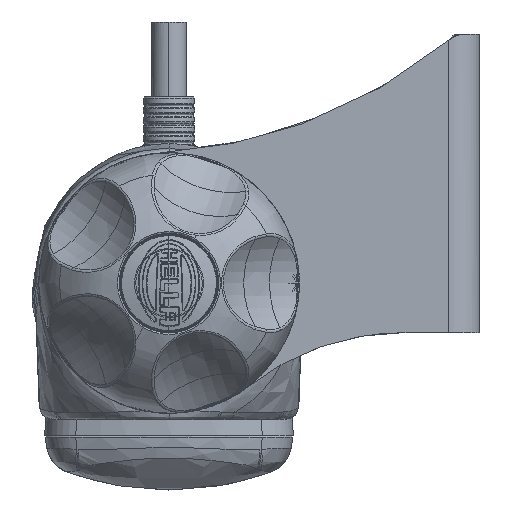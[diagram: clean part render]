
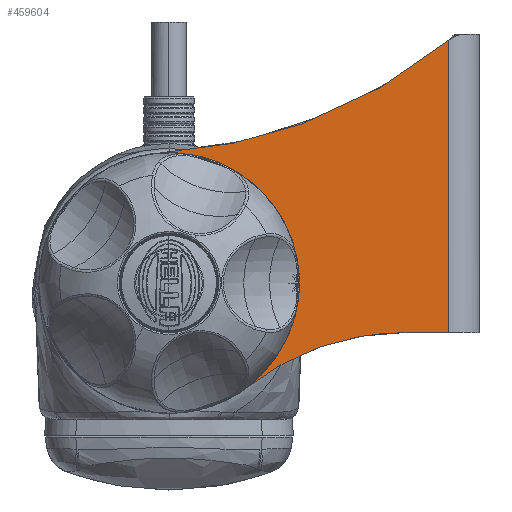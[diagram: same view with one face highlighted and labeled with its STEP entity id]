
A CAD part, left-side view. The second image highlights one B-rep face of the part: STEP entity #459604.
In plain terms, the highlighted planar face has unit normal (-1, 0, 0).
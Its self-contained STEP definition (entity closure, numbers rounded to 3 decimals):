
#459534=AXIS2_PLACEMENT_3D('Plane Axis2P3D',#459531,#459532,#459533) ;
#459382=CARTESIAN_POINT('Vertex',(-247.,7.,20.)) ;
#459386=CARTESIAN_POINT('Control Point',(-247.,7.,20.)) ;
#459387=CARTESIAN_POINT('Control Point',(-247.,7.,18.9)) ;
#459388=CARTESIAN_POINT('Control Point',(-247.,6.784,17.801)) ;
#459389=CARTESIAN_POINT('Control Point',(-247.,6.352,16.758)) ;
#459390=CARTESIAN_POINT('Control Point',(-247.,5.102,14.898)) ;
#459391=CARTESIAN_POINT('Control Point',(-247.,3.242,13.648)) ;
#459392=CARTESIAN_POINT('Control Point',(-247.,2.199,13.216)) ;
#459393=CARTESIAN_POINT('Control Point',(-247.,0.,12.784)) ;
#459394=CARTESIAN_POINT('Control Point',(-247.,-2.199,13.216)) ;
#459395=CARTESIAN_POINT('Control Point',(-247.,-3.242,13.648)) ;
#459396=CARTESIAN_POINT('Control Point',(-247.,-5.102,14.898)) ;
#459397=CARTESIAN_POINT('Control Point',(-247.,-6.352,16.758)) ;
#459398=CARTESIAN_POINT('Control Point',(-247.,-6.784,17.801)) ;
#459399=CARTESIAN_POINT('Control Point',(-247.,-7.,18.9)) ;
#459400=CARTESIAN_POINT('Control Point',(-247.,-7.,20.)) ;
#459401=CARTESIAN_POINT('Vertex',(-247.,-7.,20.)) ;
#459448=CARTESIAN_POINT('Vertex',(-247.,-45.,12.)) ;
#459452=CARTESIAN_POINT('Control Point',(-247.,-37.643,12.)) ;
#459453=CARTESIAN_POINT('Control Point',(-247.,-45.,12.)) ;
#459454=CARTESIAN_POINT('Vertex',(-247.,-37.643,12.)) ;
#459495=CARTESIAN_POINT('Control Point',(-247.,-45.,59.058)) ;
#459496=CARTESIAN_POINT('Control Point',(-247.,-35.259,51.042)) ;
#459497=CARTESIAN_POINT('Control Point',(-247.,-23.827,45.072)) ;
#459498=CARTESIAN_POINT('Control Point',(-247.,-11.381,41.694)) ;
#459499=CARTESIAN_POINT('Control Point',(-247.,1.213,40.965)) ;
#459500=CARTESIAN_POINT('Vertex',(-247.,-45.,59.058)) ;
#459502=CARTESIAN_POINT('Vertex',(-247.,1.213,40.965)) ;
#459531=CARTESIAN_POINT('Axis2P3D Location',(-247.,-37.643,-28.)) ;
#459537=CARTESIAN_POINT('Control Point',(-247.,-45.,12.)) ;
#459538=CARTESIAN_POINT('Control Point',(-247.,-45.,59.058)) ;
#459541=CARTESIAN_POINT('Control Point',(-247.,1.213,40.965)) ;
#459542=CARTESIAN_POINT('Control Point',(-247.,2.701,40.879)) ;
#459543=CARTESIAN_POINT('Control Point',(-247.,5.82,40.362)) ;
#459544=CARTESIAN_POINT('Control Point',(-247.,10.288,38.532)) ;
#459545=CARTESIAN_POINT('Control Point',(-247.,14.428,35.546)) ;
#459546=CARTESIAN_POINT('Control Point',(-247.,17.623,31.768)) ;
#459547=CARTESIAN_POINT('Control Point',(-247.,19.856,27.364)) ;
#459548=CARTESIAN_POINT('Control Point',(-247.,21.026,22.681)) ;
#459549=CARTESIAN_POINT('Control Point',(-247.,21.071,17.576)) ;
#459550=CARTESIAN_POINT('Control Point',(-247.,19.917,12.765)) ;
#459551=CARTESIAN_POINT('Control Point',(-247.,17.69,8.358)) ;
#459552=CARTESIAN_POINT('Control Point',(-247.,14.608,4.642)) ;
#459553=CARTESIAN_POINT('Control Point',(-247.,10.521,1.584)) ;
#459554=CARTESIAN_POINT('Control Point',(-247.,5.961,-0.335)) ;
#459555=CARTESIAN_POINT('Control Point',(-247.,1.091,-1.149)) ;
#459556=CARTESIAN_POINT('Control Point',(-247.,-3.728,-0.865)) ;
#459557=CARTESIAN_POINT('Control Point',(-247.,-8.613,0.618)) ;
#459558=CARTESIAN_POINT('Control Point',(-247.,-11.569,2.385)) ;
#459559=CARTESIAN_POINT('Control Point',(-247.,-12.959,3.475)) ;
#459560=CARTESIAN_POINT('Vertex',(-247.,-12.959,3.475)) ;
#459564=CARTESIAN_POINT('Control Point',(-247.,-12.959,3.475)) ;
#459565=CARTESIAN_POINT('Control Point',(-247.,-14.703,4.843)) ;
#459566=CARTESIAN_POINT('Control Point',(-247.,-18.42,7.289)) ;
#459567=CARTESIAN_POINT('Control Point',(-247.,-24.525,9.983)) ;
#459568=CARTESIAN_POINT('Control Point',(-247.,-30.993,11.631)) ;
#459569=CARTESIAN_POINT('Control Point',(-247.,-35.426,12.)) ;
#459570=CARTESIAN_POINT('Control Point',(-247.,-37.643,12.)) ;
#459580=CARTESIAN_POINT('Control Point',(-247.,-7.,20.)) ;
#459581=CARTESIAN_POINT('Control Point',(-247.,-7.,20.916)) ;
#459582=CARTESIAN_POINT('Control Point',(-247.,-6.636,22.749)) ;
#459583=CARTESIAN_POINT('Control Point',(-247.,-5.079,25.079)) ;
#459584=CARTESIAN_POINT('Control Point',(-247.,-2.749,26.636)) ;
#459585=CARTESIAN_POINT('Control Point',(-247.,-0.916,27.)) ;
#459586=CARTESIAN_POINT('Control Point',(-247.,0.,27.)) ;
#459587=CARTESIAN_POINT('Vertex',(-247.,0.,27.)) ;
#459591=CARTESIAN_POINT('Control Point',(-247.,0.,27.)) ;
#459592=CARTESIAN_POINT('Control Point',(-247.,0.916,27.)) ;
#459593=CARTESIAN_POINT('Control Point',(-247.,2.749,26.636)) ;
#459594=CARTESIAN_POINT('Control Point',(-247.,5.079,25.079)) ;
#459595=CARTESIAN_POINT('Control Point',(-247.,6.636,22.749)) ;
#459596=CARTESIAN_POINT('Control Point',(-247.,7.,20.916)) ;
#459597=CARTESIAN_POINT('Control Point',(-247.,7.,20.)) ;
#459532=DIRECTION('Axis2P3D Direction',(1.,0.,0.)) ;
#459533=DIRECTION('Axis2P3D XDirection',(0.,1.,0.)) ;
#459573=ORIENTED_EDGE('',*,*,#459456,.T.) ;
#459574=ORIENTED_EDGE('',*,*,#459539,.T.) ;
#459575=ORIENTED_EDGE('',*,*,#459504,.T.) ;
#459576=ORIENTED_EDGE('',*,*,#459562,.T.) ;
#459577=ORIENTED_EDGE('',*,*,#459571,.T.) ;
#459600=ORIENTED_EDGE('',*,*,#459589,.F.) ;
#459601=ORIENTED_EDGE('',*,*,#459403,.F.) ;
#459602=ORIENTED_EDGE('',*,*,#459598,.F.) ;
#459603=FACE_BOUND('',#459599,.T.) ;
#459604=ADVANCED_FACE('958 139-02_001;1-50mm Single Pivot Bracket B.1\\958 128-02_003;1-FOOT_B.1\\Extrude (2)',(#459578,#459603),#459535,.F.) ;
#459385=B_SPLINE_CURVE_WITH_KNOTS('',5,(#459386,#459387,#459388,#459389,#459390,#459391,#459392,#459393,#459394,#459395,#459396,#459397,#459398,#459399,#459400),.UNSPECIFIED.,.F.,.U.,(6,3,3,3,6),(0.,0.25,0.5,0.75,1.),.UNSPECIFIED.) ;
#459494=B_SPLINE_CURVE_WITH_KNOTS('',4,(#459495,#459496,#459497,#459498,#459499),.UNSPECIFIED.,.F.,.U.,(5,5),(0.,1.),.UNSPECIFIED.) ;
#459403=EDGE_CURVE('',#459383,#459402,#459385,.T.) ;
#459456=EDGE_CURVE('',#459455,#459449,#459451,.T.) ;
#459504=EDGE_CURVE('',#459501,#459503,#459494,.T.) ;
#459539=EDGE_CURVE('',#459449,#459501,#459536,.T.) ;
#459562=EDGE_CURVE('',#459503,#459561,#459540,.T.) ;
#459571=EDGE_CURVE('',#459561,#459455,#459563,.T.) ;
#459589=EDGE_CURVE('',#459402,#459588,#459579,.T.) ;
#459598=EDGE_CURVE('',#459588,#459383,#459590,.T.) ;
#459572=EDGE_LOOP('',(#459573,#459574,#459575,#459576,#459577)) ;
#459599=EDGE_LOOP('',(#459600,#459601,#459602)) ;
#459578=FACE_OUTER_BOUND('',#459572,.T.) ;
#459535=PLANE('',#459534) ;
#459383=VERTEX_POINT('',#459382) ;
#459402=VERTEX_POINT('',#459401) ;
#459449=VERTEX_POINT('',#459448) ;
#459455=VERTEX_POINT('',#459454) ;
#459501=VERTEX_POINT('',#459500) ;
#459503=VERTEX_POINT('',#459502) ;
#459561=VERTEX_POINT('',#459560) ;
#459588=VERTEX_POINT('',#459587) ;
#459451=(BOUNDED_CURVE()B_SPLINE_CURVE(1,(#459452,#459453),.UNSPECIFIED.,.F.,.U.)B_SPLINE_CURVE_WITH_KNOTS((2,2),(0.,7.357),.UNSPECIFIED.)CURVE()GEOMETRIC_REPRESENTATION_ITEM()RATIONAL_B_SPLINE_CURVE((1.,1.))REPRESENTATION_ITEM('')) ;
#459536=(BOUNDED_CURVE()B_SPLINE_CURVE(1,(#459537,#459538),.UNSPECIFIED.,.F.,.U.)B_SPLINE_CURVE_WITH_KNOTS((2,2),(0.,47.058),.UNSPECIFIED.)CURVE()GEOMETRIC_REPRESENTATION_ITEM()RATIONAL_B_SPLINE_CURVE((1.,1.))REPRESENTATION_ITEM('')) ;
#459540=(BOUNDED_CURVE()B_SPLINE_CURVE(3,(#459541,#459542,#459543,#459544,#459545,#459546,#459547,#459548,#459549,#459550,#459551,#459552,#459553,#459554,#459555,#459556,#459557,#459558,#459559),.UNSPECIFIED.,.F.,.U.)B_SPLINE_CURVE_WITH_KNOTS((4,1,1,1,1,1,1,1,1,1,1,1,1,1,1,1,4),(0.,4.503,9.493,14.478,19.812,24.315,29.305,34.29,39.624,44.127,49.117,54.102,59.436,63.939,68.93,73.914,79.248),.UNSPECIFIED.)CURVE()GEOMETRIC_REPRESENTATION_ITEM()RATIONAL_B_SPLINE_CURVE((1.,1.,1.,1.,1.,1.,1.,1.,1.,1.,1.,1.,1.,1.,1.,1.,1.,1.,1.))REPRESENTATION_ITEM('')) ;
#459563=(BOUNDED_CURVE()B_SPLINE_CURVE(3,(#459564,#459565,#459566,#459567,#459568,#459569,#459570),.UNSPECIFIED.,.F.,.U.)B_SPLINE_CURVE_WITH_KNOTS((4,1,1,1,4),(0.,6.67,13.339,20.009,26.679),.UNSPECIFIED.)CURVE()GEOMETRIC_REPRESENTATION_ITEM()RATIONAL_B_SPLINE_CURVE((1.,1.,1.,1.,1.,1.,1.))REPRESENTATION_ITEM('')) ;
#459579=(BOUNDED_CURVE()B_SPLINE_CURVE(3,(#459580,#459581,#459582,#459583,#459584,#459585,#459586),.UNSPECIFIED.,.F.,.U.)B_SPLINE_CURVE_WITH_KNOTS((4,1,1,1,4),(0.,2.793,5.587,8.38,11.174),.UNSPECIFIED.)CURVE()GEOMETRIC_REPRESENTATION_ITEM()RATIONAL_B_SPLINE_CURVE((1.,1.,1.,1.,1.,1.,1.))REPRESENTATION_ITEM('')) ;
#459590=(BOUNDED_CURVE()B_SPLINE_CURVE(3,(#459591,#459592,#459593,#459594,#459595,#459596,#459597),.UNSPECIFIED.,.F.,.U.)B_SPLINE_CURVE_WITH_KNOTS((4,1,1,1,4),(0.,2.793,5.587,8.38,11.174),.UNSPECIFIED.)CURVE()GEOMETRIC_REPRESENTATION_ITEM()RATIONAL_B_SPLINE_CURVE((1.,1.,1.,1.,1.,1.,1.))REPRESENTATION_ITEM('')) ;
